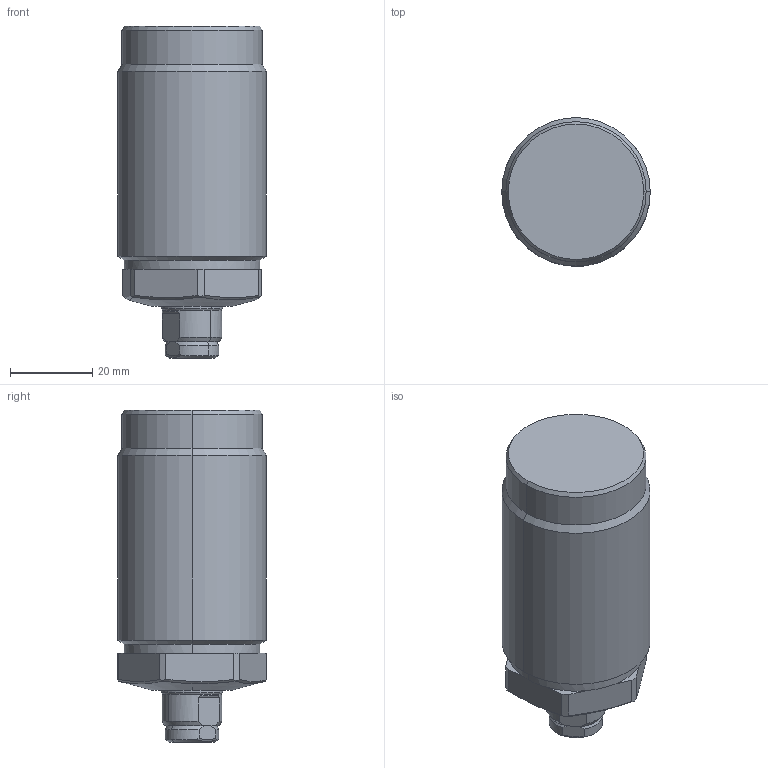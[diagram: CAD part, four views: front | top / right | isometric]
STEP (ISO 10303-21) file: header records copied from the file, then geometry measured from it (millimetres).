
FILE_DESCRIPTION (( 'STEP AP214' ), '1' );
FILE_NAME ('TW09-M362.STEP', '2020-08-06T04:31:11', ( '' ), ( '' ), 'SwSTEP 2.0', 'SolidWorks 2019', '' );
FILE_SCHEMA (( 'AUTOMOTIVE_DESIGN' ));
Length unit declared in the file: millimetre
Products named in the file (4): M36-PLUNGER; TW09-M362-BODY; M36-PAD; TW09-M362
Assembly tree (3 placements, depth 2):
  TW09-M362
    TW09-M362-BODY
    M36-PLUNGER
    M36-PAD
Bounding box: 36 x 36 x 80.5 mm (x, y, z)
Volume: 63721 mm3; surface area: 14766.9 mm2
Topology: 3 solids, 3 shells, 103 faces, 237 edges, 142 vertices
Faces by surface type: plane 35, cone 31, cylinder 29, bspline 8
Entity records: 4150 total; most frequent: CARTESIAN_POINT 1676, DIRECTION 478, ORIENTED_EDGE 470, EDGE_CURVE 235, AXIS2_PLACEMENT_3D 192, VERTEX_POINT 142, EDGE_LOOP 107, ADVANCED_FACE 103
